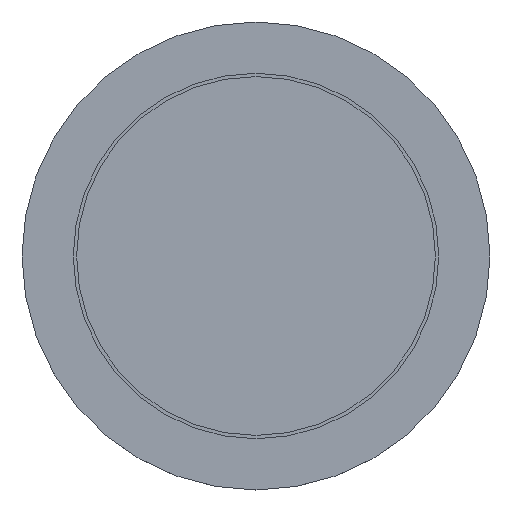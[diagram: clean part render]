
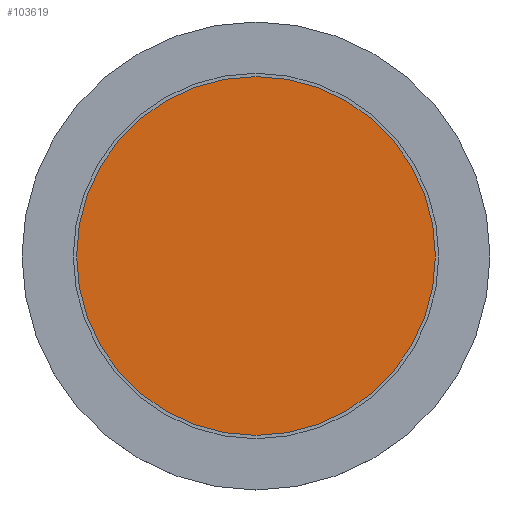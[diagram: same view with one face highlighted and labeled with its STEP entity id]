
A CAD part, top view. The second image highlights one B-rep face of the part: STEP entity #103619.
In plain terms, the highlighted planar face has unit normal (0, 0, 1).
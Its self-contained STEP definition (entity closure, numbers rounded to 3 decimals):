
#103553 = CYLINDRICAL_SURFACE('',#103554,64.4);
#103554 = AXIS2_PLACEMENT_3D('',#103555,#103556,#103557);
#103555 = CARTESIAN_POINT('',(0.,0.,61.4));
#103556 = DIRECTION('',(0.,0.,1.));
#103557 = DIRECTION('',(1.,0.,-0.));
#103568 = EDGE_CURVE('',#103569,#103569,#103571,.T.);
#103569 = VERTEX_POINT('',#103570);
#103570 = CARTESIAN_POINT('',(64.4,0.,62.));
#103571 = SURFACE_CURVE('',#103572,(#103577,#103584),.PCURVE_S1.);
#103572 = CIRCLE('',#103573,64.4);
#103573 = AXIS2_PLACEMENT_3D('',#103574,#103575,#103576);
#103574 = CARTESIAN_POINT('',(0.,0.,62.));
#103575 = DIRECTION('',(0.,0.,1.));
#103576 = DIRECTION('',(1.,0.,-0.));
#103577 = PCURVE('',#103553,#103578);
#103578 = DEFINITIONAL_REPRESENTATION('',(#103579),#103583);
#103579 = LINE('',#103580,#103581);
#103580 = CARTESIAN_POINT('',(0.,0.6));
#103581 = VECTOR('',#103582,1.);
#103582 = DIRECTION('',(1.,0.));
#103583 = ( GEOMETRIC_REPRESENTATION_CONTEXT(2) 
PARAMETRIC_REPRESENTATION_CONTEXT() REPRESENTATION_CONTEXT('2D SPACE',''
  ) );
#103584 = PCURVE('',#103585,#103590);
#103585 = PLANE('',#103586);
#103586 = AXIS2_PLACEMENT_3D('',#103587,#103588,#103589);
#103587 = CARTESIAN_POINT('',(0.,0.,62.));
#103588 = DIRECTION('',(0.,0.,1.));
#103589 = DIRECTION('',(1.,0.,-0.));
#103590 = DEFINITIONAL_REPRESENTATION('',(#103591),#103595);
#103591 = CIRCLE('',#103592,64.4);
#103592 = AXIS2_PLACEMENT_2D('',#103593,#103594);
#103593 = CARTESIAN_POINT('',(0.,0.));
#103594 = DIRECTION('',(1.,0.));
#103595 = ( GEOMETRIC_REPRESENTATION_CONTEXT(2) 
PARAMETRIC_REPRESENTATION_CONTEXT() REPRESENTATION_CONTEXT('2D SPACE',''
  ) );
#103619 = ADVANCED_FACE('',(#103620),#103585,.T.);
#103620 = FACE_BOUND('',#103621,.T.);
#103621 = EDGE_LOOP('',(#103622));
#103622 = ORIENTED_EDGE('',*,*,#103568,.T.);
